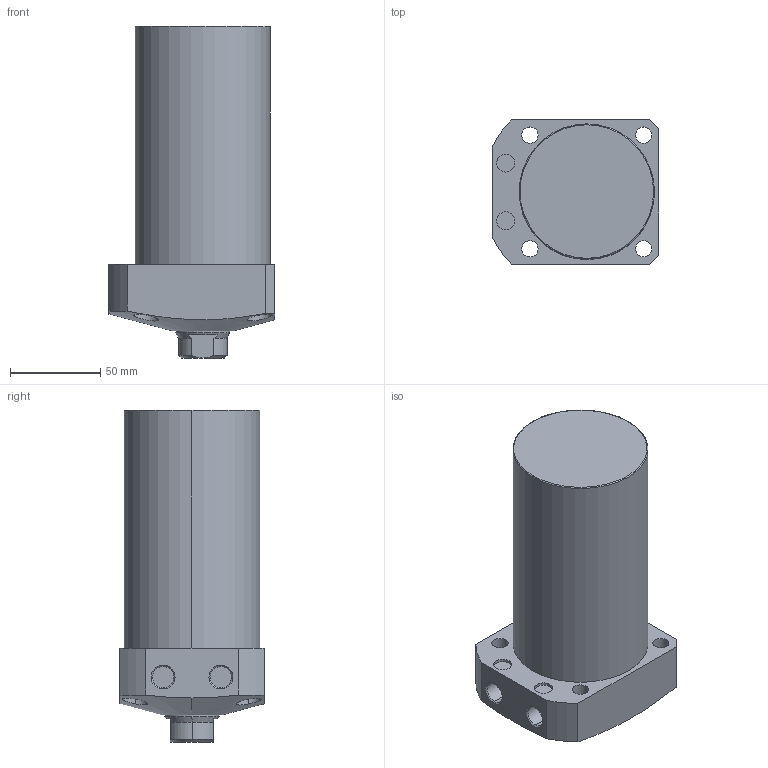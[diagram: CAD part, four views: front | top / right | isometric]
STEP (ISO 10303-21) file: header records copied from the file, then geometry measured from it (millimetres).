
FILE_DESCRIPTION (( 'STEP AP203' ), '1' );
FILE_NAME ('CLL-075CA-095.STEP', '2019-12-23T08:38:37', ( '' ), ( '' ), 'SwSTEP 2.0', 'SolidWorks 2015', '' );
FILE_SCHEMA (( 'CONFIG_CONTROL_DESIGN' ));
Length unit declared in the file: millimetre
Products named in the file (1): CLL-075CA-095
Bounding box: 92 x 80 x 184 mm (x, y, z)
Volume: 802216.1 mm3; surface area: 63436.1 mm2
Topology: 1 solids, 1 shells, 74 faces, 171 edges, 108 vertices
Faces by surface type: cylinder 35, plane 22, cone 15, torus 2
Entity records: 2610 total; most frequent: CARTESIAN_POINT 815, DIRECTION 376, ORIENTED_EDGE 338, EDGE_CURVE 169, AXIS2_PLACEMENT_3D 156, VERTEX_POINT 108, EDGE_LOOP 93, CIRCLE 81
